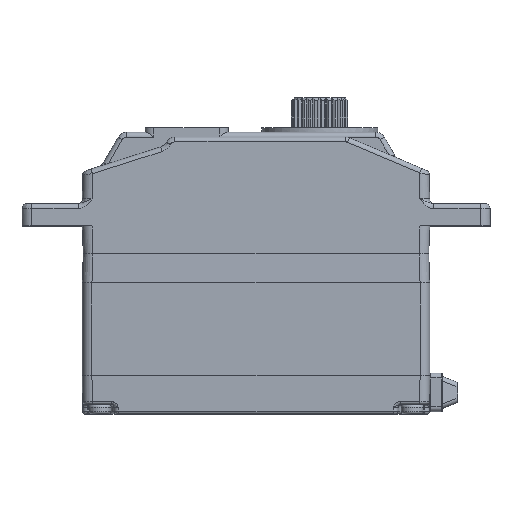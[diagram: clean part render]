
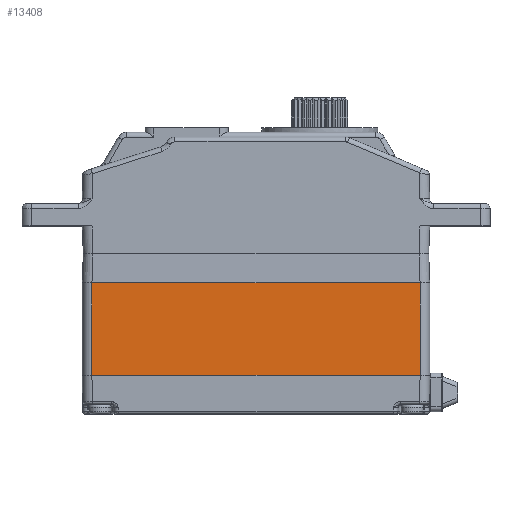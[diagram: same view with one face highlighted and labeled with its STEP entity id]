
A CAD part, top view. The second image highlights one B-rep face of the part: STEP entity #13408.
In plain terms, the highlighted planar face has unit normal (0, 0, 1).
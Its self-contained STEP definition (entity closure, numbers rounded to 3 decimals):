
#487=DIRECTION('',(1.,0.,0.));
#488=VECTOR('',#487,34.);
#489=CARTESIAN_POINT('',(-17.,-3.,7.6));
#490=LINE('',#489,#488);
#495=DIRECTION('',(1.,0.,0.));
#496=VECTOR('',#495,34.);
#497=CARTESIAN_POINT('',(-17.,-12.6,7.6));
#498=LINE('',#497,#496);
#499=DIRECTION('',(0.,-1.,0.));
#500=VECTOR('',#499,9.6);
#501=CARTESIAN_POINT('',(-17.,-3.,7.6));
#502=LINE('',#501,#500);
#521=DIRECTION('',(0.,-1.,0.));
#522=VECTOR('',#521,9.6);
#523=CARTESIAN_POINT('',(17.,-3.,7.6));
#524=LINE('',#523,#522);
#11204=CARTESIAN_POINT('',(-17.,-3.,7.6));
#11205=VERTEX_POINT('',#11204);
#11206=CARTESIAN_POINT('',(17.,-3.,7.6));
#11207=VERTEX_POINT('',#11206);
#12204=CARTESIAN_POINT('',(-17.,-12.6,
7.6));
#12205=CARTESIAN_POINT('',(17.,-12.6,
7.6));
#12206=VERTEX_POINT('',#12204);
#12207=VERTEX_POINT('',#12205);
#13395=CARTESIAN_POINT('',(-17.,-3.,7.6));
#13396=DIRECTION('',(0.,0.,1.));
#13397=DIRECTION('',(1.,0.,0.));
#13398=AXIS2_PLACEMENT_3D('',#13395,#13396,#13397);
#13399=PLANE('',#13398);
#13401=ORIENTED_EDGE('',*,*,#13400,.F.);
#13402=ORIENTED_EDGE('',*,*,#13264,.F.);
#13403=ORIENTED_EDGE('',*,*,#13386,.T.);
#13405=ORIENTED_EDGE('',*,*,#13404,.T.);
#13406=EDGE_LOOP('',(#13401,#13402,#13403,#13405));
#13407=FACE_OUTER_BOUND('',#13406,.F.);
#13264=EDGE_CURVE('',#11205,#12206,#502,.T.);
#13386=EDGE_CURVE('',#11205,#11207,#490,.T.);
#13400=EDGE_CURVE('',#12206,#12207,#498,.T.);
#13404=EDGE_CURVE('',#11207,#12207,#524,.T.);
#13408=ADVANCED_FACE('',(#13407),#13399,.T.);
